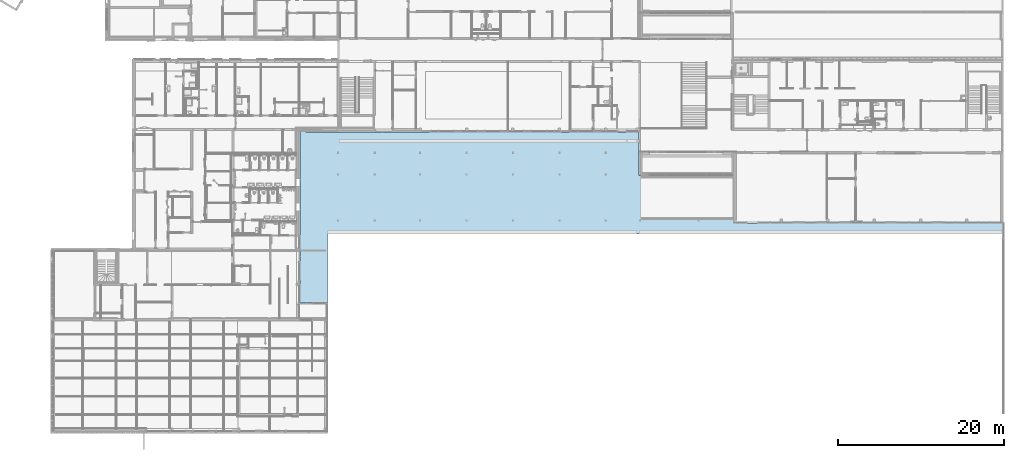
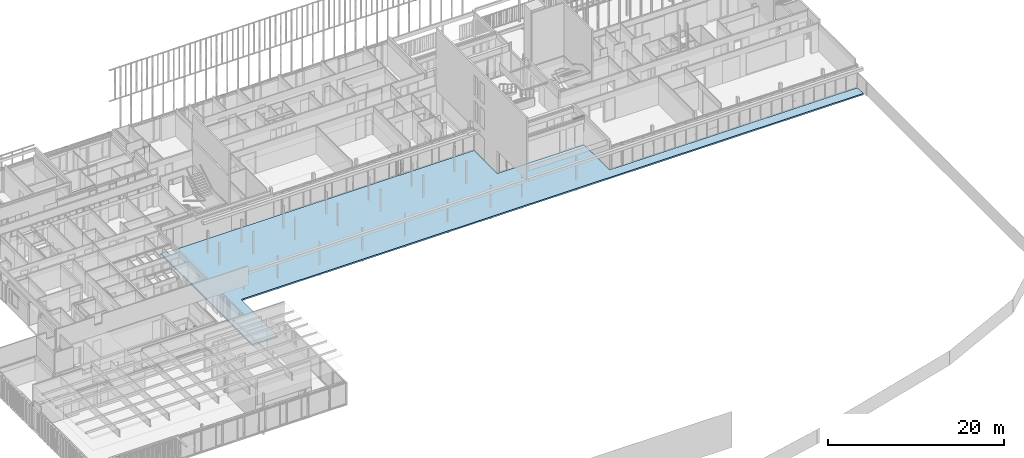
# One storey, part 67 of 240: 1 slab.
"""IFC2X3 building model written with IfcOpenShell, lengths in centimetres."""

from ifc_helpers import new_model, entity, si_unit, converted_unit, derived_unit, direction, frame, origin, place, context, subcontext, project, spatial, polyline, outline, extrude, material, layer, layer_set, layer_usage, type_object, element, save


model = new_model("IFC2X3")

# Units and contexts
model_context = context("Model", 3, precision=0.001, world=origin(), true_north=direction((6.12303176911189e-17, 1.0)))
body_context = subcontext(model_context, "Body", "Model", "MODEL_VIEW")
ifc_project = project(units=[si_unit("LENGTHUNIT", "METRE", prefix="CENTI"), si_unit("AREAUNIT", "SQUARE_METRE"), si_unit("VOLUMEUNIT", "CUBIC_METRE"), converted_unit("PLANEANGLEUNIT", "DEGREE", entity("IfcRatioMeasure", 0.0174532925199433), si_unit("PLANEANGLEUNIT", "RADIAN"), dimensions=[0, 0, 0, 0, 0, 0, 0]), si_unit("MASSUNIT", "GRAM", prefix="KILO"), derived_unit("MASSDENSITYUNIT", [(si_unit("MASSUNIT", "GRAM", prefix="KILO"), 1), (si_unit("LENGTHUNIT", "METRE"), -3)]), si_unit("TIMEUNIT", "SECOND"), si_unit("FREQUENCYUNIT", "HERTZ"), si_unit("THERMODYNAMICTEMPERATUREUNIT", "DEGREE_CELSIUS"), derived_unit("THERMALTRANSMITTANCEUNIT", [(si_unit("MASSUNIT", "GRAM", prefix="KILO"), 1), (si_unit("THERMODYNAMICTEMPERATUREUNIT", "KELVIN"), -1), (si_unit("TIMEUNIT", "SECOND"), -3)]), derived_unit("VOLUMETRICFLOWRATEUNIT", [(si_unit("LENGTHUNIT", "METRE"), 3), (si_unit("TIMEUNIT", "SECOND"), -1)]), si_unit("ELECTRICCURRENTUNIT", "AMPERE"), si_unit("ELECTRICVOLTAGEUNIT", "VOLT"), si_unit("POWERUNIT", "WATT"), si_unit("FORCEUNIT", "NEWTON", prefix="KILO"), si_unit("ILLUMINANCEUNIT", "LUX"), si_unit("LUMINOUSFLUXUNIT", "LUMEN"), si_unit("LUMINOUSINTENSITYUNIT", "CANDELA"), derived_unit("USERDEFINED", [(si_unit("MASSUNIT", "GRAM", prefix="KILO"), -1), (si_unit("LENGTHUNIT", "METRE"), -2), (si_unit("TIMEUNIT", "SECOND"), 3), (si_unit("LUMINOUSFLUXUNIT", "LUMEN"), 1)]), derived_unit("LINEARVELOCITYUNIT", [(si_unit("LENGTHUNIT", "METRE"), 1), (si_unit("TIMEUNIT", "SECOND"), -1)]), si_unit("PRESSUREUNIT", "PASCAL"), derived_unit("USERDEFINED", [(si_unit("LENGTHUNIT", "METRE"), -2), (si_unit("MASSUNIT", "GRAM", prefix="KILO"), 1), (si_unit("TIMEUNIT", "SECOND"), -2)])], contexts=[model_context])

# Site, building, storey
site_placement = place(None, frame((-2781.94577612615, 7442.24238424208, 0.0)))
site = spatial("IfcSite", under=ifc_project, at=site_placement, Name="Default", CompositionType="ELEMENT")
building_placement = place(site_placement, origin())
building = spatial("IfcBuilding", under=site, at=building_placement, CompositionType="ELEMENT")
storey_placement = place(building_placement, origin())
storey = spatial("IfcBuildingStorey", under=building, at=storey_placement, Name="N00 - COO", CompositionType="ELEMENT", Elevation=0.0)

# Slab
ifc_material = material(Name="01 - Maçonnerie")
ifc_layer = layer(ifc_material, 20.0)
ifc_layer_set = layer_set([ifc_layer], Name="Sol:02 - dalle béton 20cm")
ifc_layer_usage = layer_usage(ifc_layer_set, "AXIS3", "POSITIVE", 0.0)
slab_type = type_object("IfcSlabType", Name="Sol:02 - dalle béton 20cm", PredefinedType="FLOOR", material=ifc_layer_set)
slab_placement = place(building_placement, origin())
element("IfcSlab", 1, at=slab_placement, inside=storey, type_object=slab_type, material=ifc_layer_usage, Name="Sol:02 - dalle béton 20cm", ObjectType="Sol:02 - dalle béton 20cm", PredefinedType="FLOOR", context=body_context, shape_type="SweptSolid", body=[
    extrude(outline(polyline([(-1248.36652715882, -3034.86441639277), (835.323472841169, -3034.86441639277), (835.323472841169, -2966.91961723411), (817.139101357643, -2966.91961723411), (817.139101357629, 1059.06788606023), (291.555939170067, 1059.06788606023), (291.555939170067, 2197.56788397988), (-282.050993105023, 2197.56788397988), (-282.050993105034, 5447.06788082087), (-413.600993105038, 5447.06788082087), (-413.600993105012, -2701.91961723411), (-1248.36652715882, -2701.91961723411), (-1248.36652715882, -3034.86441639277)])), frame((-5847.06776366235, -2767.20059905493, 0.0), z_axis=(0.0, 0.0, -1.0), x_axis=(0.0, 1.0, 0.0)), (0.0, 0.0, 1.0), 20.0),
])

save(model, "model.ifc")
